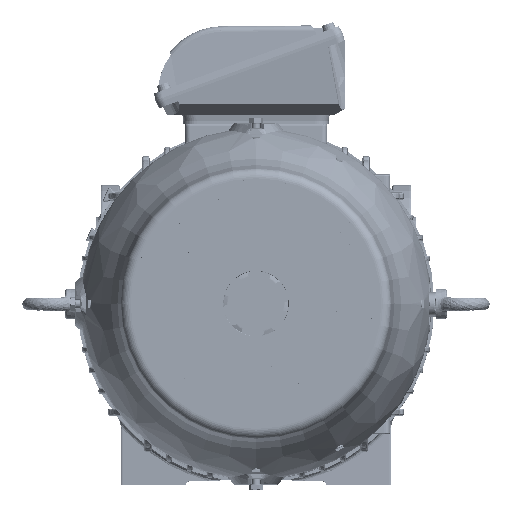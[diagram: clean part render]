
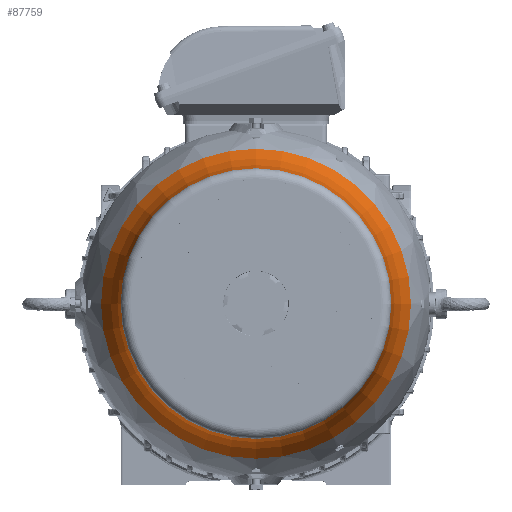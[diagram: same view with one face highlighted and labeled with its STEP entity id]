
A CAD part, top view. The second image highlights one B-rep face of the part: STEP entity #87759.
In plain terms, the highlighted toroidal (fillet/blend) face has major radius 264.661 mm and minor radius 130 mm.
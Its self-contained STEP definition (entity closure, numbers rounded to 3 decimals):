
#95=TOROIDAL_SURFACE('',#93630,264.661,130.);
#10213=FACE_OUTER_BOUND('',#15353,.T.);
#15353=EDGE_LOOP('',(#62327,#62328,#62329,#62330,#62331,#62332));
#20500=CIRCLE('',#93625,134.976);
#20501=CIRCLE('',#93626,134.976);
#20505=CIRCLE('',#93631,154.526);
#20506=CIRCLE('',#93632,154.526);
#20507=CIRCLE('',#93633,130.);
#35432=VERTEX_POINT('',#179314);
#35433=VERTEX_POINT('',#179315);
#35436=VERTEX_POINT('',#179324);
#35437=VERTEX_POINT('',#179325);
#45291=EDGE_CURVE('',#35432,#35433,#20500,.T.);
#45292=EDGE_CURVE('',#35433,#35432,#20501,.T.);
#45296=EDGE_CURVE('',#35436,#35437,#20505,.T.);
#45297=EDGE_CURVE('',#35437,#35436,#20506,.T.);
#45298=EDGE_CURVE('',#35437,#35433,#20507,.T.);
#62327=ORIENTED_EDGE('',*,*,#45296,.F.);
#62328=ORIENTED_EDGE('',*,*,#45297,.F.);
#62329=ORIENTED_EDGE('',*,*,#45298,.T.);
#62330=ORIENTED_EDGE('',*,*,#45292,.T.);
#62331=ORIENTED_EDGE('',*,*,#45291,.T.);
#62332=ORIENTED_EDGE('',*,*,#45298,.F.);
#87759=ADVANCED_FACE('',(#10213),#95,.F.);
#93625=AXIS2_PLACEMENT_3D('',#179316,#105443,#105444);
#93626=AXIS2_PLACEMENT_3D('',#179317,#105445,#105446);
#93630=AXIS2_PLACEMENT_3D('',#179323,#105453,#105454);
#93631=AXIS2_PLACEMENT_3D('',#179326,#105455,#105456);
#93632=AXIS2_PLACEMENT_3D('',#179327,#105457,#105458);
#93633=AXIS2_PLACEMENT_3D('',#179328,#105459,#105460);
#105443=DIRECTION('center_axis',(0.,0.,
-1.));
#105444=DIRECTION('ref_axis',(-1.,0.,0.));
#105445=DIRECTION('center_axis',(0.,0.,
-1.));
#105446=DIRECTION('ref_axis',(-1.,0.,0.));
#105453=DIRECTION('center_axis',(0.,0.,
-1.));
#105454=DIRECTION('ref_axis',(-1.,0.,0.));
#105455=DIRECTION('center_axis',(0.,0.,
-1.));
#105456=DIRECTION('ref_axis',(-1.,0.,0.));
#105457=DIRECTION('center_axis',(0.,0.,
-1.));
#105458=DIRECTION('ref_axis',(-1.,0.,0.));
#105459=DIRECTION('center_axis',(0.,1.,0.));
#105460=DIRECTION('ref_axis',(1.,0.,0.));
#179314=CARTESIAN_POINT('',(-134.976,0.,702.195));
#179315=CARTESIAN_POINT('',(134.976,0.,702.195));
#179316=CARTESIAN_POINT('Origin',(0.,0.,
702.195));
#179317=CARTESIAN_POINT('Origin',(0.,0.,
702.195));
#179323=CARTESIAN_POINT('Origin',(0.,0.,
711.231));
#179324=CARTESIAN_POINT('',(-154.526,0.,642.164));
#179325=CARTESIAN_POINT('',(154.526,0.,642.164));
#179326=CARTESIAN_POINT('Origin',(0.,0.,
642.164));
#179327=CARTESIAN_POINT('Origin',(0.,0.,
642.164));
#179328=CARTESIAN_POINT('Origin',(264.661,0.,
711.231));
